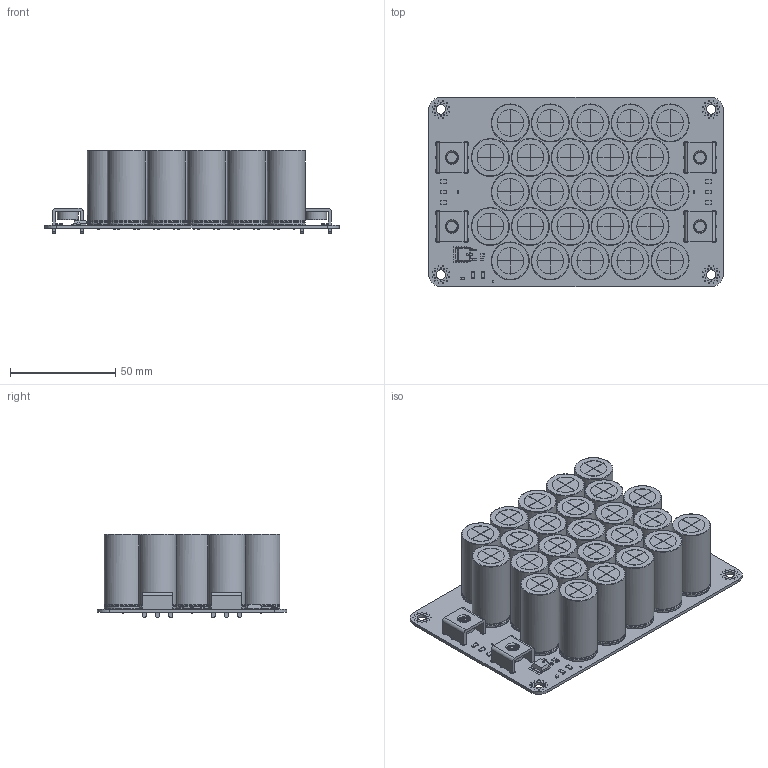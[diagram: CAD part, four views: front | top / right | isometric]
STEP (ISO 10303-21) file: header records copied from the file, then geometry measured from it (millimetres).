
FILE_DESCRIPTION(('KiCad electronic assembly'),'2;1');
FILE_NAME('pcb.step','2025-07-29T12:55:40',('Pcbnew'),('Kicad'), 'Open CASCADE STEP processor 7.8','KiCad to STEP converter','Unknown' );
FILE_SCHEMA(('AUTOMOTIVE_DESIGN { 1 0 10303 214 1 1 1 1 }'));
Length unit declared in the file: millimetre
Products named in the file (9): pcb 1; LED_0603_1608Metric; C_Radial_D18.0mm_H35.5mm_P7.50mm; Terminal_THT_PCB-5M6; R_1206_3216Metric; R_0805_2012Metric; TO-252-2; pcb 1.29.1; cpbnk-25x18-60_PCB
Assembly tree (43 placements, depth 3):
  pcb 1
    LED_0603_1608Metric  x2
    C_Radial_D18.0mm_H35.5mm_P7.50mm  x25
    Terminal_THT_PCB-5M6  x4
    R_1206_3216Metric  x8
    R_0805_2012Metric
    TO-252-2
      pcb 1.29.1
    cpbnk-25x18-60_PCB
Bounding box: 140 x 90 x 39.5 mm (x, y, z)
Volume: 246016.3 mm3; surface area: 101396.9 mm2
Topology: 46 solids, 71 shells, 1720 faces, 4071 edges, 2600 vertices
Faces by surface type: plane 970, cylinder 537, bspline 130, revolution 50, torus 29, cone 4
Full cylindrical faces by diameter (mm): 0.3 x23, 0.4 x96, 0.8 x50, 1 x51, 2.7 x24, 4.5 x4, 5.026 x16, 10 x4, 12.6 x75, 18 x50
Entity records: 20226 total; most frequent: CARTESIAN_POINT 5334, DIRECTION 2852, ORIENTED_EDGE 2664, EDGE_CURVE 1332, AXIS2_PLACEMENT_3D 1054, FACE_BOUND 901, EDGE_LOOP 901, VERTEX_POINT 865
